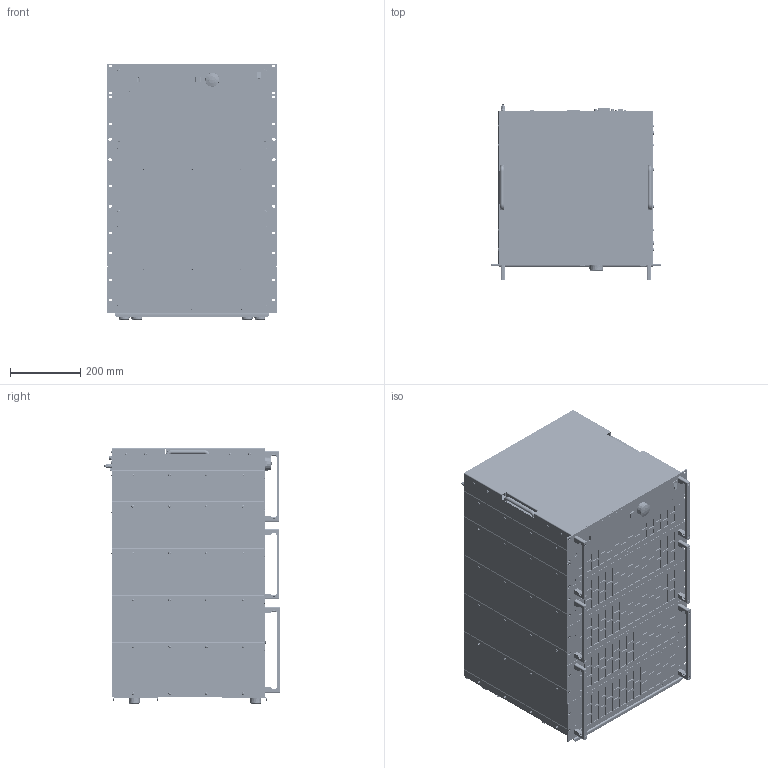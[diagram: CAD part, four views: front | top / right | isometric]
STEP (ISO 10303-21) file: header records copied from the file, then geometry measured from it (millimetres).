
FILE_DESCRIPTION(('STEP AP214'),'1');
FILE_NAME('ACL_M12_19Z_16HE_PH3_15_ST125_BRA_3D_02.step','2020-02-20T10:55:59',(' '),(' '),'Spatial InterOp 3D',' ',' ');
FILE_SCHEMA(('AUTOMOTIVE_DESIGN { 1 0 10303 214 1 1 1 1 }'));
Length unit declared in the file: millimetre
Products named in the file (27): *U366; *U367; *U368; *U286; *U287; *U288; 2073_Seitenteil_2HE_3D_01; 2081_Frontplatte_Leistungsteil_2HE_3D_01; 2075_Rückwand_Leistungsteil_2HE_3D_01; 2076_ACL_2HE_Seitenprofil_links_3D_01; 2077_ACL_2HE_Seitenprofil_rechts_3D_01; *U281; *U282; *U283; *U292; *U293; *U294; *U295; *U296; *U297; *U298; *U329; 2078_ACL_IO Panel_02; 2085_ACL_Rückwand_Steuerteil_Single_Phase_mit_Druck_3D_02; *U330; AutoCreatedBlock_2392
Assembly tree (160 placements, depth 2):
  (unnamed)
    *U366  x8
    *U367  x6
    *U368  x8
    *U286  x24
    *U287  x18
    *U288  x24
    2073_Seitenteil_2HE_3D_01  x2
    2081_Frontplatte_Leistungsteil_2HE_3D_01
    2075_Rückwand_Leistungsteil_2HE_3D_01
    2076_ACL_2HE_Seitenprofil_links_3D_01
    2077_ACL_2HE_Seitenprofil_rechts_3D_01
    *U281  x6
    *U282  x8
    *U283  x4
    *U292  x2
    *U293
    *U294  x3
    *U295  x2
    *U296  x2
    *U297  x13
    *U298  x16
    *U329  x2
    2078_ACL_IO Panel_02
    2085_ACL_Rückwand_Steuerteil_Single_Phase_mit_Druck_3D_02
    *U330  x4
    AutoCreatedBlock_2392
Bounding box: 482.61 x 498.15 x 728.08 mm (x, y, z)
Volume: 4457060.4 mm3; surface area: 6737716.5 mm2
Topology: 370 solids, 544 shells, 27839 faces, 69919 edges, 43699 vertices
Faces by surface type: plane 13150, cone 9505, cylinder 4471, sphere 306, torus 205, bspline 202
Entity records: 850715 total; most frequent: CARTESIAN_POINT 148175, DIRECTION 109868, ORIENTED_EDGE 107498, EDGE_CURVE 54109, LINE 38676, VECTOR 38676, AXIS2_PLACEMENT_3D 35596, VERTEX_POINT 34319
